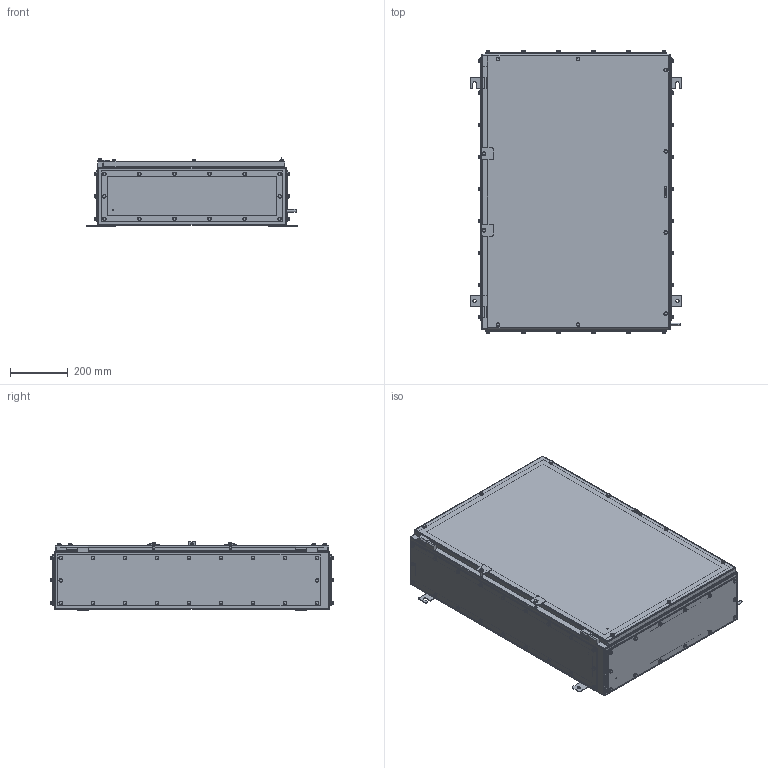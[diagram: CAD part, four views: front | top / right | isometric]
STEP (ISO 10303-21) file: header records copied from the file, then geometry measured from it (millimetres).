
FILE_DESCRIPTION (( 'STEP AP203' ), '1' );
FILE_NAME ('SX7_200_4GP.STEP', '2021-05-20T08:10:30', ( '' ), ( '' ), 'SwSTEP 2.0', 'SolidWorks 2020', '' );
FILE_SCHEMA (( 'CONFIG_CONTROL_DESIGN' ));
Length unit declared in the file: millimetre
Products named in the file (13): hex screw gradec_bsi_ISO 4018 - M6 x 12-WN; SX7_200_4GP; hex screw gradec_bsi_BS EN 24018 - M6 x 16-WN; SX7-200 side Gasket; SX7 Door; SX7 Door Gasket; hex screw gradec_bsi_BS EN 24018 - M6 x 20-WN; SX7-200 Base Gasket; SX7_200_4GP Body; plain washer form a_bsi_Bright washer BS 4320 - M6 (Form A); hex screw gradec_iso_ISO 4018 - M6 x 30-WN; SX7-200 Base Gland plate; SX7-200 side Gland plate
Assembly tree (167 placements, depth 2):
  SX7_200_4GP
    SX7_200_4GP Body
    SX7-200 Base Gasket  x2
    SX7-200 side Gasket  x2
    SX7-200 side Gland plate  x2
    SX7-200 Base Gland plate  x2
    hex screw gradec_bsi_BS EN 24018 - M6 x 16-WN  x4
    plain washer form a_bsi_Bright washer BS 4320 - M6 (Form A)  x78
    hex screw gradec_bsi_ISO 4018 - M6 x 12-WN  x64
    SX7 Door
    hex screw gradec_bsi_BS EN 24018 - M6 x 20-WN  x8
    hex screw gradec_iso_ISO 4018 - M6 x 30-WN  x2
    SX7 Door Gasket
Bounding box: 730 x 973.95 x 236 mm (x, y, z)
Volume: 5883591.1 mm3; surface area: 5007112.7 mm2
Topology: 167 solids, 167 shells, 3874 faces, 8406 edges, 5080 vertices
Faces by surface type: plane 1742, cylinder 1432, cone 636, sphere 56, torus 8
Entity records: 41729 total; most frequent: DIRECTION 7006, CARTESIAN_POINT 6208, ORIENTED_EDGE 5580, AXIS2_PLACEMENT_3D 2854, EDGE_CURVE 2790, VERTEX_POINT 1768, EDGE_LOOP 1614, CIRCLE 1444
